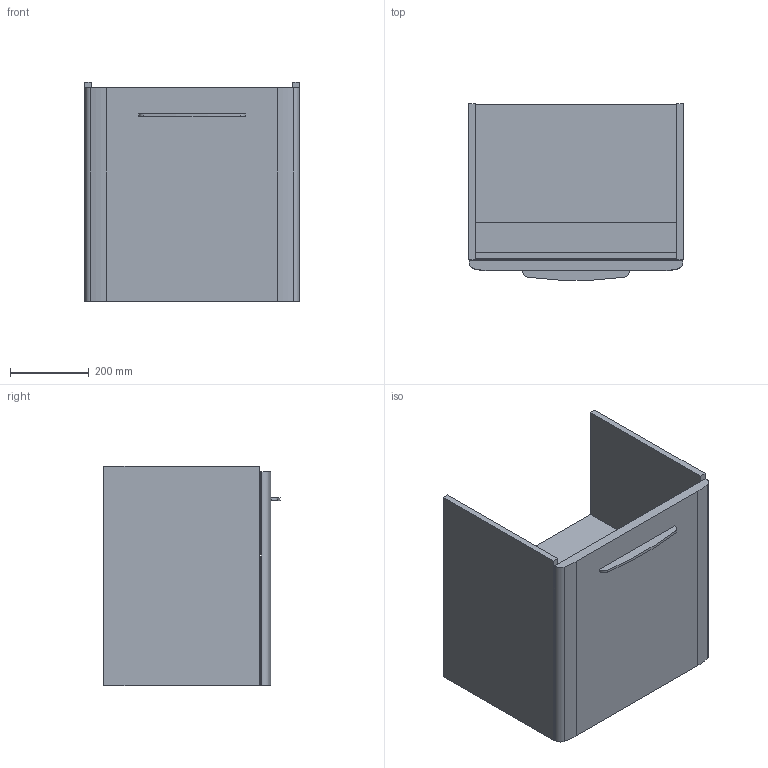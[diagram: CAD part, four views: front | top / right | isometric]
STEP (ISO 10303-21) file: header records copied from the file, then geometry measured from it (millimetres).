
FILE_DESCRIPTION(/* description */ (''),/* implementation_level */ '2;1');
FILE_NAME(/* name */ 'C:\Planerdaten\Export PLA\500.180.01.1\stp\500180.stp',/* time_stamp */ '2019-11-26T15:03:30+01:00',/* author */ ('JANAN'),/* organization */ (''),/* preprocessor_version */ 'ST-DEVELOPER v16.13',/* originating_system */ 'Autodesk Inventor 2018',/* authorisation */ '');
FILE_SCHEMA (('AUTOMOTIVE_DESIGN { 1 0 10303 214 3 1 1 }'));
Length unit declared in the file: millimetre
Products named in the file (1): US-f-1-WT Ge+SnvS B65 1-Tür w
Bounding box: 544 x 447.09 x 557 mm (x, y, z)
Volume: 22093851 mm3; surface area: 2566327.1 mm2
Topology: 2 solids, 2 shells, 45 faces, 114 edges, 76 vertices
Faces by surface type: plane 38, cylinder 7
Entity records: 1384 total; most frequent: CARTESIAN_POINT 236, ORIENTED_EDGE 228, DIRECTION 220, EDGE_CURVE 114, LINE 100, VECTOR 100, VERTEX_POINT 76, AXIS2_PLACEMENT_3D 60
